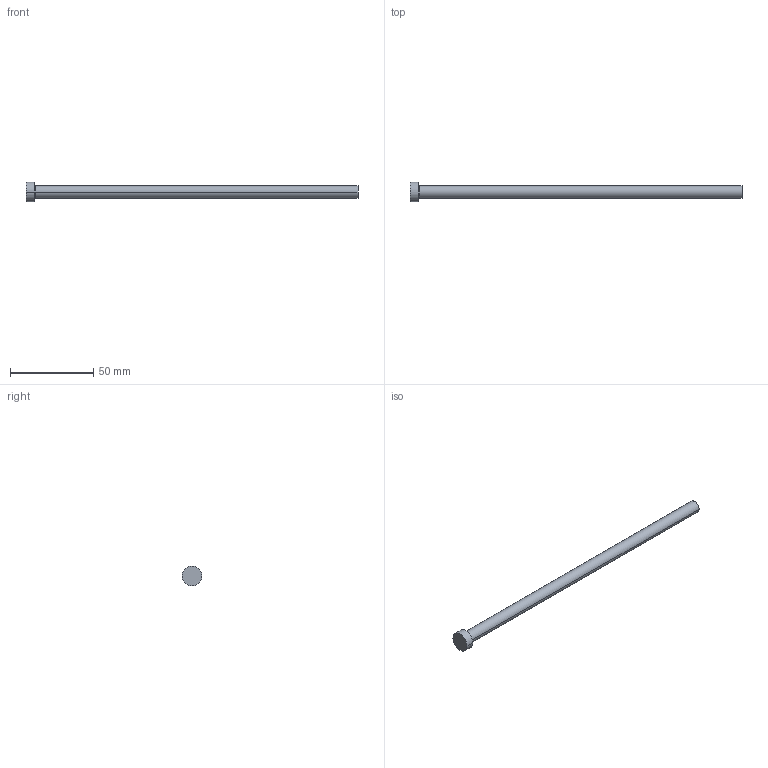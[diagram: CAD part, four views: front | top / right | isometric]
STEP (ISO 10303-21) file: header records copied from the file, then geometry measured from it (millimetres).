
FILE_DESCRIPTION (( 'STEP AP214' ), '1' );
FILE_NAME ('A-7,5x200.STEP', '2020-05-29T15:44:53', ( 'August' ), ( '' ), 'SwSTEP 2.0', 'SolidWorks 2018', '' );
FILE_SCHEMA (( 'AUTOMOTIVE_DESIGN' ));
Length unit declared in the file: millimetre
Products named in the file (1): A-7,5x200
Bounding box: 200 x 12 x 12 mm (x, y, z)
Volume: 9181.6 mm3; surface area: 5004.3 mm2
Topology: 1 solids, 1 shells, 9 faces, 16 edges, 10 vertices
Faces by surface type: cylinder 4, plane 3, torus 2
Entity records: 260 total; most frequent: DIRECTION 48, CARTESIAN_POINT 36, ORIENTED_EDGE 32, AXIS2_PLACEMENT_3D 22, EDGE_CURVE 16, CIRCLE 12, EDGE_LOOP 10, VERTEX_POINT 10
